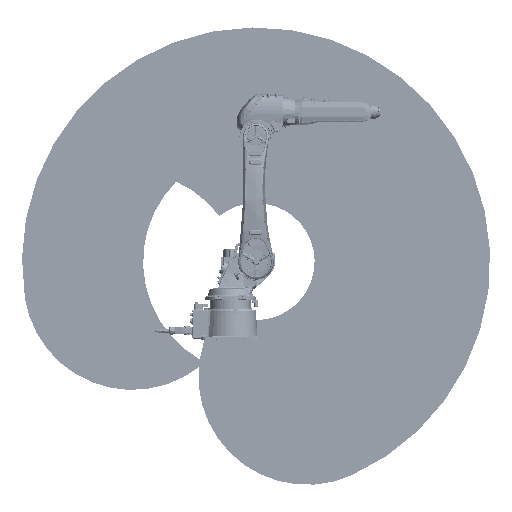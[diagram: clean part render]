
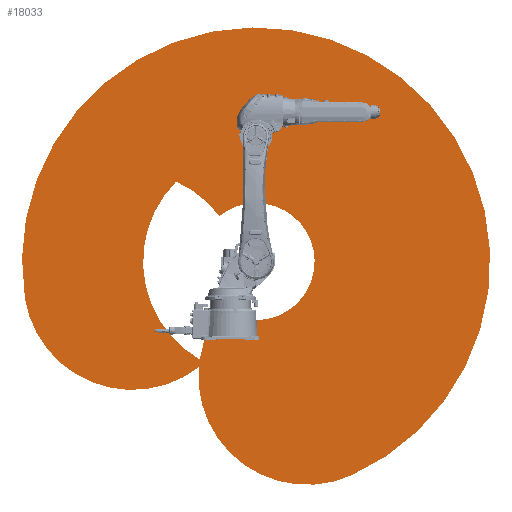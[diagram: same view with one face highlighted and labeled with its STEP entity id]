
A CAD part, front view. The second image highlights one B-rep face of the part: STEP entity #18033.
In plain terms, the highlighted planar face has unit normal (0, -1, 0).
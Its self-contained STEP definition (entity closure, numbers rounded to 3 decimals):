
#9973=FACE_BOUND('',#33680,.T.);
#9974=FACE_BOUND('',#33681,.T.);
#18033=ADVANCED_FACE('',(#9973,#9974),#20415,.T.);
#20415=PLANE('',#114352);
#33680=EDGE_LOOP('',(#67892,#67893,#67894));
#33681=EDGE_LOOP('',(#67895,#67896,#67897,#67898));
#38547=CIRCLE('',#114345,676.831);
#38548=CIRCLE('',#114346,676.831);
#38549=CIRCLE('',#114347,1456.831);
#38550=CIRCLE('',#114348,676.831);
#38551=CIRCLE('',#114349,364.069);
#38552=CIRCLE('',#114350,676.831);
#38553=CIRCLE('',#114351,703.184);
#67892=ORIENTED_EDGE('',*,*,#92070,.T.);
#67893=ORIENTED_EDGE('',*,*,#92071,.T.);
#67894=ORIENTED_EDGE('',*,*,#92072,.T.);
#67895=ORIENTED_EDGE('',*,*,#92073,.T.);
#67896=ORIENTED_EDGE('',*,*,#92074,.T.);
#67897=ORIENTED_EDGE('',*,*,#92075,.T.);
#67898=ORIENTED_EDGE('',*,*,#92076,.T.);
#77394=VERTEX_POINT('',#251253);
#77395=VERTEX_POINT('',#251254);
#77396=VERTEX_POINT('',#251256);
#77397=VERTEX_POINT('',#251259);
#77398=VERTEX_POINT('',#251260);
#77399=VERTEX_POINT('',#251262);
#77400=VERTEX_POINT('',#251264);
#92070=EDGE_CURVE('',#77394,#77395,#38547,.T.);
#92071=EDGE_CURVE('',#77395,#77396,#38548,.T.);
#92072=EDGE_CURVE('',#77396,#77394,#38549,.T.);
#92073=EDGE_CURVE('',#77397,#77398,#38550,.T.);
#92074=EDGE_CURVE('',#77398,#77399,#38551,.T.);
#92075=EDGE_CURVE('',#77399,#77400,#38552,.T.);
#92076=EDGE_CURVE('',#77400,#77397,#38553,.T.);
#114345=AXIS2_PLACEMENT_3D('',#251252,#140274,#140275);
#114346=AXIS2_PLACEMENT_3D('',#251255,#140276,#140277);
#114347=AXIS2_PLACEMENT_3D('',#251257,#140278,#140279);
#114348=AXIS2_PLACEMENT_3D('',#251258,#140280,#140281);
#114349=AXIS2_PLACEMENT_3D('',#251261,#140282,#140283);
#114350=AXIS2_PLACEMENT_3D('',#251263,#140284,#140285);
#114351=AXIS2_PLACEMENT_3D('',#251265,#140286,#140287);
#114352=AXIS2_PLACEMENT_3D('',#251266,#140288,#140289);
#140274=DIRECTION('',(0.,-1.,0.));
#140275=DIRECTION('',(1.,0.,0.));
#140276=DIRECTION('',(0.,-1.,0.));
#140277=DIRECTION('',(1.,0.,0.));
#140278=DIRECTION('',(0.,-1.,0.));
#140279=DIRECTION('',(1.,0.,0.));
#140280=DIRECTION('',(0.,1.,0.));
#140281=DIRECTION('',(1.,0.,0.));
#140282=DIRECTION('',(0.,1.,0.));
#140283=DIRECTION('',(1.,0.,0.));
#140284=DIRECTION('',(0.,-1.,0.));
#140285=DIRECTION('',(1.,0.,0.));
#140286=DIRECTION('',(0.,1.,0.));
#140287=DIRECTION('',(1.,0.,0.));
#140288=DIRECTION('',(0.,-1.,0.));
#140289=DIRECTION('',(0.,0.,-1.));
#251252=CARTESIAN_POINT('',(1402.586,4995.999,-122.019));
#251253=CARTESIAN_POINT('',(734.088,4995.999,-227.899));
#251254=CARTESIAN_POINT('',(1815.591,4995.999,-658.234));
#251255=CARTESIAN_POINT('',(2490.238,4995.999,-712.565));
#251256=CARTESIAN_POINT('',(2765.529,4995.999,-1330.881));
#251257=CARTESIAN_POINT('',(2172.983,4995.999,0.));
#251258=CARTESIAN_POINT('',(1402.586,4995.999,-122.019));
#251259=CARTESIAN_POINT('',(1675.764,4995.999,497.234));
#251260=CARTESIAN_POINT('',(1944.516,4995.999,283.459));
#251261=CARTESIAN_POINT('',(2172.983,4995.999,0.));
#251262=CARTESIAN_POINT('',(1958.314,4995.999,-294.047));
#251263=CARTESIAN_POINT('',(2490.238,4995.999,-712.565));
#251264=CARTESIAN_POINT('',(1821.382,4995.999,-608.97));
#251265=CARTESIAN_POINT('',(2172.983,4995.999,0.));
#251266=CARTESIAN_POINT('',(1946.412,4995.999,-417.292));
